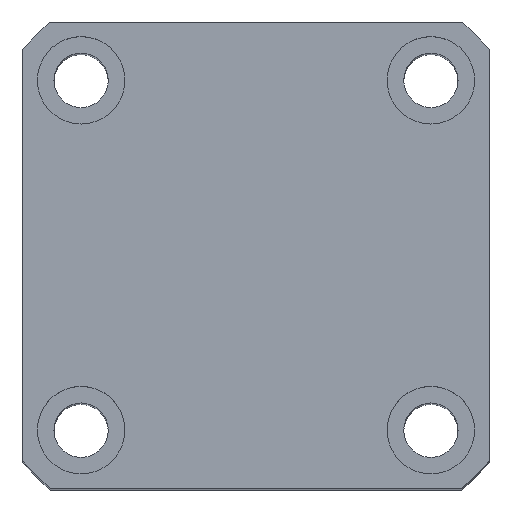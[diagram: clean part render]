
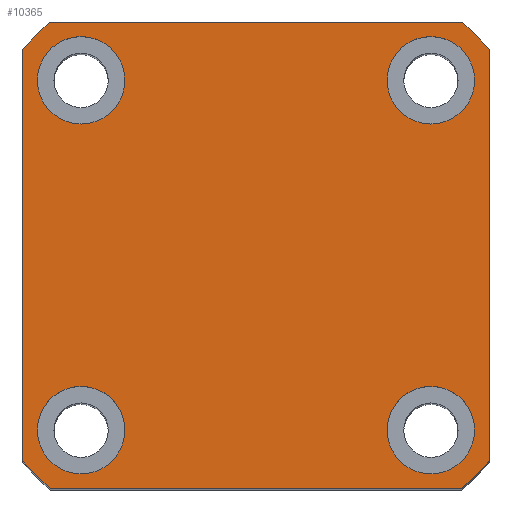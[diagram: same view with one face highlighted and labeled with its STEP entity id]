
A CAD part, top view. The second image highlights one B-rep face of the part: STEP entity #10365.
In plain terms, the highlighted planar face has unit normal (0, 0, 1) as drawn and (1, 0, 0) by its records, which use the part's own axes.
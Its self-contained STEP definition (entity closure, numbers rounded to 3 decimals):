
#50 = DIRECTION ( 'NONE',  ( 1., 0., 0. ) ) ;
#63 = EDGE_CURVE ( 'NONE', #9174, #6295, #8526, .T. ) ;
#64 = CARTESIAN_POINT ( 'NONE',  ( 95., -18., -18. ) ) ;
#175 = DIRECTION ( 'NONE',  ( 0., 0., 1. ) ) ;
#277 = CARTESIAN_POINT ( 'NONE',  ( 95., -18., 18. ) ) ;
#420 = VERTEX_POINT ( 'NONE', #6212 ) ;
#509 = CARTESIAN_POINT ( 'NONE',  ( 95., 18., 22.5 ) ) ;
#510 = LINE ( 'NONE', #3363, #4605 ) ;
#523 = CARTESIAN_POINT ( 'NONE',  ( 95., 18., -18. ) ) ;
#535 = VERTEX_POINT ( 'NONE', #509 ) ;
#601 = FACE_OUTER_BOUND ( 'NONE', #6821, .T. ) ;
#631 = VECTOR ( 'NONE', #175, 1000. ) ;
#685 = DIRECTION ( 'NONE',  ( 0., 0., -1. ) ) ;
#750 = AXIS2_PLACEMENT_3D ( 'NONE', #7213, #2292, #8067 ) ;
#756 = CARTESIAN_POINT ( 'NONE',  ( 95., -18., -13.5 ) ) ;
#903 = DIRECTION ( 'NONE',  ( 0., 0., -1. ) ) ;
#970 = DIRECTION ( 'NONE',  ( 1., 0., 0. ) ) ;
#994 = AXIS2_PLACEMENT_3D ( 'NONE', #6765, #1838, #7598 ) ;
#993 = CARTESIAN_POINT ( 'NONE',  ( 95., -18., 18. ) ) ;
#1008 = CARTESIAN_POINT ( 'NONE',  ( 95., 24., 24. ) ) ;
#1105 = DIRECTION ( 'NONE',  ( 0., 0., -1. ) ) ;
#1130 = LINE ( 'NONE', #9483, #3021 ) ;
#1158 = CARTESIAN_POINT ( 'NONE',  ( 95., 24., 24. ) ) ;
#1161 = CIRCLE ( 'NONE', #5992, 32. ) ;
#1199 = CARTESIAN_POINT ( 'NONE',  ( 95., 0., 0. ) ) ;
#1214 = ORIENTED_EDGE ( 'NONE', *, *, #9997, .T. ) ;
#1260 = ORIENTED_EDGE ( 'NONE', *, *, #10312, .F. ) ;
#1300 = EDGE_CURVE ( 'NONE', #3734, #1910, #8234, .T. ) ;
#1302 = ORIENTED_EDGE ( 'NONE', *, *, #6649, .F. ) ;
#1325 = DIRECTION ( 'NONE',  ( 1., 0., 0. ) ) ;
#1395 = VERTEX_POINT ( 'NONE', #4218 ) ;
#1431 = EDGE_CURVE ( 'NONE', #9237, #2303, #1161, .T. ) ;
#1487 = AXIS2_PLACEMENT_3D ( 'NONE', #277, #6024, #1105 ) ;
#1574 = DIRECTION ( 'NONE',  ( 0., 0., -1. ) ) ;
#1803 = ORIENTED_EDGE ( 'NONE', *, *, #5765, .F. ) ;
#1815 = CARTESIAN_POINT ( 'NONE',  ( 95., 18., -18. ) ) ;
#1816 = DIRECTION ( 'NONE',  ( 0., 0., -1. ) ) ;
#1838 = DIRECTION ( 'NONE',  ( 1., 0., 0. ) ) ;
#1910 = VERTEX_POINT ( 'NONE', #8347 ) ;
#2107 = EDGE_LOOP ( 'NONE', ( #3974, #1260 ) ) ;
#2281 = CIRCLE ( 'NONE', #8603, 4.5 ) ;
#2292 = DIRECTION ( 'NONE',  ( 1., 0., 0. ) ) ;
#2303 = VERTEX_POINT ( 'NONE', #8778 ) ;
#2530 = LINE ( 'NONE', #1008, #631 ) ;
#2620 = DIRECTION ( 'NONE',  ( 0., 0., -1. ) ) ;
#2637 = CARTESIAN_POINT ( 'NONE',  ( 95., 21.166, -24. ) ) ;
#2680 = DIRECTION ( 'NONE',  ( 1., 0., 0. ) ) ;
#2745 = EDGE_CURVE ( 'NONE', #9372, #3734, #2530, .T. ) ;
#2762 = FACE_BOUND ( 'NONE', #2107, .T. ) ;
#2854 = ORIENTED_EDGE ( 'NONE', *, *, #6013, .T. ) ;
#2905 = CIRCLE ( 'NONE', #5802, 32. ) ;
#3021 = VECTOR ( 'NONE', #10363, 1000. ) ;
#3063 = ORIENTED_EDGE ( 'NONE', *, *, #4249, .F. ) ;
#3105 = CARTESIAN_POINT ( 'NONE',  ( 95., 0., 0. ) ) ;
#3141 = CIRCLE ( 'NONE', #4253, 32. ) ;
#3142 = CIRCLE ( 'NONE', #1487, 4.5 ) ;
#3363 = CARTESIAN_POINT ( 'NONE',  ( 95., 24., -24. ) ) ;
#3461 = CARTESIAN_POINT ( 'NONE',  ( 95., -21.166, -24. ) ) ;
#3621 = DIRECTION ( 'NONE',  ( 0., -1., 0. ) ) ;
#3734 = VERTEX_POINT ( 'NONE', #4162 ) ;
#3905 = PLANE ( 'NONE',  #4034 ) ;
#3974 = ORIENTED_EDGE ( 'NONE', *, *, #4614, .F. ) ;
#4008 = ORIENTED_EDGE ( 'NONE', *, *, #2745, .T. ) ;
#4034 = AXIS2_PLACEMENT_3D ( 'NONE', #3105, #5599, #685 ) ;
#4097 = EDGE_CURVE ( 'NONE', #5861, #6769, #2905, .T. ) ;
#4162 = CARTESIAN_POINT ( 'NONE',  ( 95., 24., 21.166 ) ) ;
#4218 = CARTESIAN_POINT ( 'NONE',  ( 95., -18., 13.5 ) ) ;
#4249 = EDGE_CURVE ( 'NONE', #6295, #9174, #2281, .T. ) ;
#4253 = AXIS2_PLACEMENT_3D ( 'NONE', #7629, #2680, #8471 ) ;
#4297 = CARTESIAN_POINT ( 'NONE',  ( 95., -24., -21.166 ) ) ;
#4380 = DIRECTION ( 'NONE',  ( 0., 0., -1. ) ) ;
#4403 = ORIENTED_EDGE ( 'NONE', *, *, #1431, .T. ) ;
#4542 = EDGE_CURVE ( 'NONE', #6769, #7281, #510, .T. ) ;
#4605 = VECTOR ( 'NONE', #5017, 1000. ) ;
#4614 = EDGE_CURVE ( 'NONE', #420, #535, #5104, .T. ) ;
#4851 = CARTESIAN_POINT ( 'NONE',  ( 95., 18., -13.5 ) ) ;
#4871 = AXIS2_PLACEMENT_3D ( 'NONE', #1199, #9778, #4380 ) ;
#4941 = FACE_BOUND ( 'NONE', #5826, .T. ) ;
#4955 = VECTOR ( 'NONE', #3621, 1000. ) ;
#4957 = CARTESIAN_POINT ( 'NONE',  ( 95., 0., 0. ) ) ;
#5017 = DIRECTION ( 'NONE',  ( 0., 1., 0. ) ) ;
#5104 = CIRCLE ( 'NONE', #994, 4.5 ) ;
#5186 = VERTEX_POINT ( 'NONE', #7676 ) ;
#5197 = AXIS2_PLACEMENT_3D ( 'NONE', #5892, #970, #6717 ) ;
#5480 = FACE_BOUND ( 'NONE', #9861, .T. ) ;
#5599 = DIRECTION ( 'NONE',  ( 1., 0., 0. ) ) ;
#5757 = CARTESIAN_POINT ( 'NONE',  ( 95., -21.166, 24. ) ) ;
#5765 = EDGE_CURVE ( 'NONE', #8514, #9957, #10173, .T. ) ;
#5799 = DIRECTION ( 'NONE',  ( 0., 0., -1. ) ) ;
#5802 = AXIS2_PLACEMENT_3D ( 'NONE', #4957, #50, #5799 ) ;
#5815 = DIRECTION ( 'NONE',  ( 1., 0., 0. ) ) ;
#5826 = EDGE_LOOP ( 'NONE', ( #8117, #1803 ) ) ;
#5861 = VERTEX_POINT ( 'NONE', #4297 ) ;
#5892 = CARTESIAN_POINT ( 'NONE',  ( 95., -18., -18. ) ) ;
#5992 = AXIS2_PLACEMENT_3D ( 'NONE', #8557, #8670, #8100 ) ;
#6013 = EDGE_CURVE ( 'NONE', #1910, #9237, #7154, .T. ) ;
#6024 = DIRECTION ( 'NONE',  ( 1., 0., 0. ) ) ;
#6062 = ORIENTED_EDGE ( 'NONE', *, *, #63, .F. ) ;
#6212 = CARTESIAN_POINT ( 'NONE',  ( 95., 18., 13.5 ) ) ;
#6295 = VERTEX_POINT ( 'NONE', #4851 ) ;
#6441 = AXIS2_PLACEMENT_3D ( 'NONE', #993, #6742, #1816 ) ;
#6470 = EDGE_CURVE ( 'NONE', #1395, #5186, #3142, .T. ) ;
#6550 = CARTESIAN_POINT ( 'NONE',  ( 95., 18., -22.5 ) ) ;
#6597 = AXIS2_PLACEMENT_3D ( 'NONE', #523, #1325, #1574 ) ;
#6641 = CARTESIAN_POINT ( 'NONE',  ( 95., -18., -22.5 ) ) ;
#6649 = EDGE_CURVE ( 'NONE', #5186, #1395, #8979, .T. ) ;
#6717 = DIRECTION ( 'NONE',  ( 0., 0., -1. ) ) ;
#6742 = DIRECTION ( 'NONE',  ( 1., 0., 0. ) ) ;
#6765 = CARTESIAN_POINT ( 'NONE',  ( 95., 18., 18. ) ) ;
#6769 = VERTEX_POINT ( 'NONE', #3461 ) ;
#6821 = EDGE_LOOP ( 'NONE', ( #6901, #1214, #4008, #9294, #2854, #4403, #8460, #7337 ) ) ;
#6901 = ORIENTED_EDGE ( 'NONE', *, *, #4542, .T. ) ;
#7154 = LINE ( 'NONE', #1158, #4955 ) ;
#7213 = CARTESIAN_POINT ( 'NONE',  ( 95., 18., 18. ) ) ;
#7230 = EDGE_LOOP ( 'NONE', ( #6062, #3063 ) ) ;
#7281 = VERTEX_POINT ( 'NONE', #2637 ) ;
#7337 = ORIENTED_EDGE ( 'NONE', *, *, #4097, .T. ) ;
#7382 = FACE_BOUND ( 'NONE', #7230, .T. ) ;
#7568 = DIRECTION ( 'NONE',  ( 1., 0., 0. ) ) ;
#7598 = DIRECTION ( 'NONE',  ( 0., 0., -1. ) ) ;
#7629 = CARTESIAN_POINT ( 'NONE',  ( 95., 0., 0. ) ) ;
#7676 = CARTESIAN_POINT ( 'NONE',  ( 95., -18., 22.5 ) ) ;
#8067 = DIRECTION ( 'NONE',  ( 0., 0., -1. ) ) ;
#8100 = DIRECTION ( 'NONE',  ( 0., 0., -1. ) ) ;
#8117 = ORIENTED_EDGE ( 'NONE', *, *, #9883, .F. ) ;
#8234 = CIRCLE ( 'NONE', #4871, 32. ) ;
#8347 = CARTESIAN_POINT ( 'NONE',  ( 95., 21.166, 24. ) ) ;
#8460 = ORIENTED_EDGE ( 'NONE', *, *, #9485, .T. ) ;
#8471 = DIRECTION ( 'NONE',  ( 0., 0., -1. ) ) ;
#8514 = VERTEX_POINT ( 'NONE', #756 ) ;
#8526 = CIRCLE ( 'NONE', #6597, 4.5 ) ;
#8532 = CARTESIAN_POINT ( 'NONE',  ( 95., 24., -21.166 ) ) ;
#8557 = CARTESIAN_POINT ( 'NONE',  ( 95., 0., 0. ) ) ;
#8603 = AXIS2_PLACEMENT_3D ( 'NONE', #1815, #7568, #2620 ) ;
#8670 = DIRECTION ( 'NONE',  ( 1., 0., 0. ) ) ;
#8778 = CARTESIAN_POINT ( 'NONE',  ( 95., -24., 21.166 ) ) ;
#8979 = CIRCLE ( 'NONE', #6441, 4.5 ) ;
#9174 = VERTEX_POINT ( 'NONE', #6550 ) ;
#9237 = VERTEX_POINT ( 'NONE', #5757 ) ;
#9294 = ORIENTED_EDGE ( 'NONE', *, *, #1300, .T. ) ;
#9372 = VERTEX_POINT ( 'NONE', #8532 ) ;
#9383 = CIRCLE ( 'NONE', #750, 4.5 ) ;
#9483 = CARTESIAN_POINT ( 'NONE',  ( 95., -24., 24. ) ) ;
#9485 = EDGE_CURVE ( 'NONE', #2303, #5861, #1130, .T. ) ;
#9527 = CIRCLE ( 'NONE', #10583, 4.5 ) ;
#9778 = DIRECTION ( 'NONE',  ( 1., 0., 0. ) ) ;
#9861 = EDGE_LOOP ( 'NONE', ( #10229, #1302 ) ) ;
#9883 = EDGE_CURVE ( 'NONE', #9957, #8514, #9527, .T. ) ;
#9957 = VERTEX_POINT ( 'NONE', #6641 ) ;
#9997 = EDGE_CURVE ( 'NONE', #7281, #9372, #3141, .T. ) ;
#10173 = CIRCLE ( 'NONE', #5197, 4.5 ) ;
#10229 = ORIENTED_EDGE ( 'NONE', *, *, #6470, .F. ) ;
#10312 = EDGE_CURVE ( 'NONE', #535, #420, #9383, .T. ) ;
#10363 = DIRECTION ( 'NONE',  ( 0., 0., -1. ) ) ;
#10365 = ADVANCED_FACE ( 'NONE', ( #4941, #5480, #7382, #2762, #601 ), #3905, .T. ) ;
#10583 = AXIS2_PLACEMENT_3D ( 'NONE', #64, #5815, #903 ) ;
